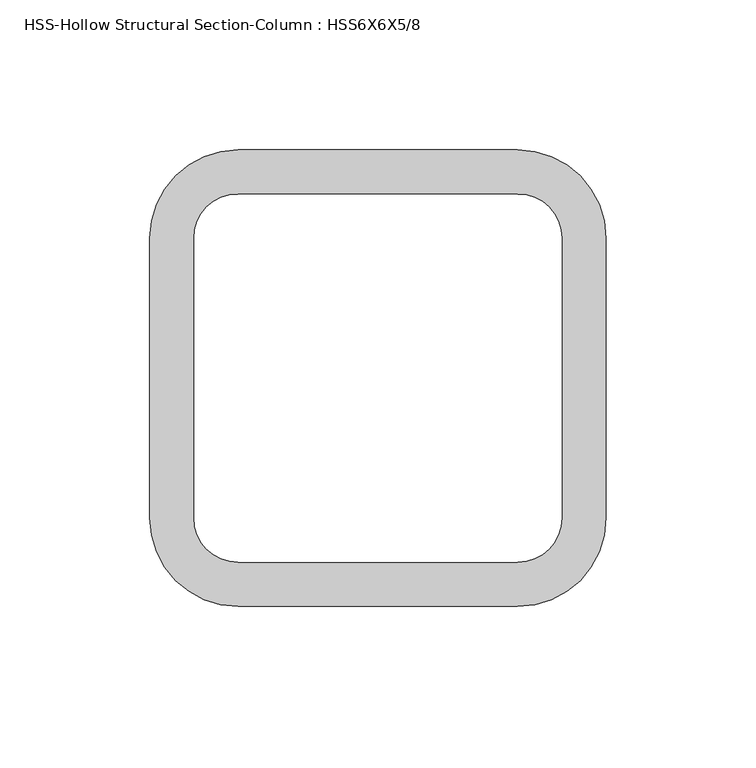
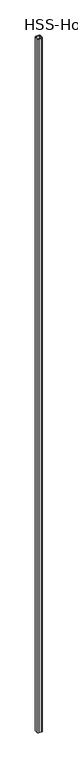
"""IFC4 building model written with IfcOpenShell, lengths in millimetres: column geometry, HSS-Hollow Structural Section-Column : HSS6X6X5/8."""

import ifcopenshell
import ifcopenshell.guid

model = None  # the IFC model being written
_history = None  # IfcOwnerHistory: only IFC2X3 demands one
_inside = {}  # id of a spatial element -> (the spatial element, [elements in it])
_under = {}  # id of a project, library or spatial element -> (it, [spatial elements below it])
_declared = {}  # id of a project -> (the project, [libraries it declares])
_typed = {}  # id of a type object -> (the type object, [elements of that type])
_made_of = {}  # id of a material, layer set ... -> (it, [elements and type objects made of it])


def new_model(schema):
    """Start an empty IFC model of exactly this schema.

    Asked for "IFC4X3", IfcOpenShell would pick the latest addendum, in which some entities
    have other attributes; the version numbers below select the first issue.
    IFC2X3 requires an IfcOwnerHistory on every rooted entity: one is made here for all.
    """
    global model, _history
    if schema == "IFC4X3":
        model = ifcopenshell.file(schema_version=(4, 3, 0, 0))
    else:
        model = ifcopenshell.file(schema=schema)
    _inside.clear()
    _under.clear()
    _declared.clear()
    _typed.clear()
    _made_of.clear()
    _history = None
    if model.schema == "IFC2X3":
        org = make("IfcOrganization", Name="unknown")
        user = make(
            "IfcPersonAndOrganization",
            ThePerson=make("IfcPerson", FamilyName="unknown"),
            TheOrganization=org,
        )
        app = make(
            "IfcApplication",
            ApplicationDeveloper=org,
            Version="unknown",
            ApplicationFullName="unknown",
            ApplicationIdentifier="unknown",
        )
        _history = make(
            "IfcOwnerHistory",
            OwningUser=user,
            OwningApplication=app,
            ChangeAction="ADDED",
            CreationDate=0,
        )
    return model


def make(cls, **values):
    """One entity of the class cls with the attributes given. An attribute that is None is left unset."""
    return model.create_entity(
        cls, **{name: value for name, value in values.items() if value is not None}
    )


def rooted(cls, **values):
    """An entity with a GlobalId (a new one), such as an element, a storey or a relation."""
    return make(cls, GlobalId=ifcopenshell.guid.new(), OwnerHistory=_history, **values)


def si_unit(unit_type, name, prefix=None):
    """IfcSIUnit, for example si_unit("LENGTHUNIT", "METRE", prefix="MILLI")."""
    return make("IfcSIUnit", UnitType=unit_type, Prefix=prefix, Name=name)


def assignment(units):
    """IfcUnitAssignment: the units of a project."""
    return None if units is None else make("IfcUnitAssignment", Units=units)


def point(xyz):
    """IfcCartesianPoint."""
    return None if xyz is None else make("IfcCartesianPoint", Coordinates=xyz)


def direction(xyz):
    """IfcDirection."""
    return None if xyz is None else make("IfcDirection", DirectionRatios=xyz)


def frame(location, z_axis=None, x_axis=None):
    """IfcAxis2Placement3D, a coordinate frame: its origin and axes. An axis left out is left unset."""
    return make(
        "IfcAxis2Placement3D",
        Location=point(location),
        Axis=direction(z_axis),
        RefDirection=direction(x_axis),
    )


def frame_2d(location, x_axis=None):
    """IfcAxis2Placement2D, a coordinate frame in the plane: its origin and x axis."""
    return make(
        "IfcAxis2Placement2D", Location=point(location), RefDirection=direction(x_axis)
    )


def origin():
    """The frame at (0, 0, 0) with its axes left unset."""
    return frame((0.0, 0.0, 0.0))


def origin_with_axes():
    """The frame at (0, 0, 0) with the z axis (0, 0, 1) and the x axis (1, 0, 0) written out."""
    return frame((0.0, 0.0, 0.0), z_axis=(0.0, 0.0, 1.0), x_axis=(1.0, 0.0, 0.0))


def place(relative_to, where):
    """IfcLocalPlacement: puts the frame where relative to a parent placement (None: the world)."""
    return make(
        "IfcLocalPlacement", PlacementRelTo=relative_to, RelativePlacement=where
    )


def context(
    kind, dimensions, precision=None, world=None, true_north=None, identifier=None
):
    """IfcGeometricRepresentationContext, for example the 3D "Model" context."""
    return make(
        "IfcGeometricRepresentationContext",
        ContextIdentifier=identifier,
        ContextType=kind,
        CoordinateSpaceDimension=dimensions,
        Precision=precision,
        WorldCoordinateSystem=world,
        TrueNorth=true_north,
    )


def project(units=None, contexts=None):
    """IfcProject with its units and contexts."""
    return rooted(
        "IfcProject",
        Name="project",
        RepresentationContexts=contexts,
        UnitsInContext=assignment(units),
    )


def spatial(cls, under=None, at=None, **own):
    """A site, building, storey or space (cls), placed at a placement, below another one or the project."""
    s = rooted(cls, ObjectPlacement=at, **own)
    if under is not None:
        _under.setdefault(under.id(), (under, []))[1].append(s)
    return s


def polyline(points):
    """IfcPolyline through the points."""
    return make("IfcPolyline", Points=[point(p) for p in points])


def circle_curve(where, radius):
    """IfcCircle in the frame where."""
    return make("IfcCircle", Position=where, Radius=radius)


def trimmed(basis, trim1, trim2, sense, master):
    """IfcTrimmedCurve: the piece of a basis curve between two trims."""
    return make(
        "IfcTrimmedCurve",
        BasisCurve=basis,
        Trim1=trim1,
        Trim2=trim2,
        SenseAgreement=sense,
        MasterRepresentation=master,
    )


def segment(curve, same_sense, transition):
    """IfcCompositeCurveSegment."""
    return make(
        "IfcCompositeCurveSegment",
        Transition=transition,
        SameSense=same_sense,
        ParentCurve=curve,
    )


def composite_curve(segments, self_intersect=None):
    """IfcCompositeCurve: segments joined end to end."""
    return make("IfcCompositeCurve", Segments=segments, SelfIntersect=self_intersect)


def outline(outer, holes=None, kind="AREA"):
    """IfcArbitraryClosedProfileDef: a profile drawn as a closed curve; with holes, ...WithVoids."""
    if holes is None:
        return make("IfcArbitraryClosedProfileDef", ProfileType=kind, OuterCurve=outer)
    return make(
        "IfcArbitraryProfileDefWithVoids",
        ProfileType=kind,
        OuterCurve=outer,
        InnerCurves=holes,
    )


def extrude(swept, where, along, depth):
    """IfcExtrudedAreaSolid: the profile swept, set in the frame where, extruded along a direction by depth."""
    return make(
        "IfcExtrudedAreaSolid",
        SweptArea=swept,
        Position=where,
        ExtrudedDirection=direction(along),
        Depth=depth,
    )


def shape(context_of_items, identifier, shape_type, items):
    """IfcShapeRepresentation: the items that make up one representation, for example the "Body"."""
    return make(
        "IfcShapeRepresentation",
        ContextOfItems=context_of_items,
        RepresentationIdentifier=identifier,
        RepresentationType=shape_type,
        Items=items,
    )


def source(mapping_origin, context_of_items, identifier, shape_type, items):
    """IfcRepresentationMap: a shape defined once, which mapped items show again and again."""
    return make(
        "IfcRepresentationMap",
        MappingOrigin=mapping_origin,
        MappedRepresentation=shape(context_of_items, identifier, shape_type, items),
    )


def transform(
    local_origin,
    x_axis=None,
    y_axis=None,
    z_axis=None,
    scale=None,
    scale2=None,
    scale3=None,
    uniform=True,
):
    """IfcCartesianTransformationOperator3D, or its non-uniform kind. x_axis, y_axis, z_axis: its Axis1, 2, 3."""
    if uniform:
        return make(
            "IfcCartesianTransformationOperator3D",
            Axis1=direction(x_axis),
            Axis2=direction(y_axis),
            LocalOrigin=point(local_origin),
            Scale=scale,
            Axis3=direction(z_axis),
        )
    return make(
        "IfcCartesianTransformationOperator3DnonUniform",
        Axis1=direction(x_axis),
        Axis2=direction(y_axis),
        LocalOrigin=point(local_origin),
        Scale=scale,
        Axis3=direction(z_axis),
        Scale2=scale2,
        Scale3=scale3,
    )


def mapped(mapping_source, mapping_target):
    """IfcMappedItem: shows the shape of a source again, moved by a transform."""
    return make(
        "IfcMappedItem", MappingSource=mapping_source, MappingTarget=mapping_target
    )


def made_of(thing, what):
    """Note that an element or type object is made of a material, layer set ...; save() writes the relation."""
    if what is not None:
        _made_of.setdefault(what.id(), (what, []))[1].append(thing)
    return thing


def element(
    cls,
    number,
    at=None,
    inside=None,
    cuts=None,
    type_object=None,
    material=None,
    context=None,
    identifier="Body",
    shape_type=None,
    held_by="IfcProductDefinitionShape",
    body=None,
    shapes=None,
    **own,
):
    """One element of the class cls, such as IfcWall. Its Tag is "e" and its number.

    at: its placement. inside: the storey or other place that contains it. cuts: it is an
    opening in that element (IfcRelVoidsElement). A single representation is given by context,
    identifier, shape_type and body (its items); several are given by shapes. held_by: the class
    of the entity that holds the representations. save() writes the other relations.
    """
    e = rooted(cls, Tag="e%d" % number, ObjectPlacement=at, **own)
    if body is not None:
        shapes = [shape(context, identifier, shape_type, body)]
    if shapes is not None:
        e.Representation = make(held_by, Representations=shapes)
    if inside is not None:
        _inside.setdefault(inside.id(), (inside, []))[1].append(e)
    if cuts is not None:
        rooted(
            "IfcRelVoidsElement", RelatingBuildingElement=cuts, RelatedOpeningElement=e
        )
    if type_object is not None:
        _typed.setdefault(type_object.id(), (type_object, []))[1].append(e)
    return made_of(e, material)


def aggregate(whole, parts):
    """IfcRelAggregates: a whole, such as a stair, and the parts it consists of."""
    return rooted("IfcRelAggregates", RelatingObject=whole, RelatedObjects=parts)


def save(model, path):
    """Write the relations noted so far, then the file.

    IfcRelAggregates (storeys below a building ...), IfcRelContainedInSpatialStructure (elements
    in a storey), IfcRelDefinesByType, IfcRelAssociatesMaterial and IfcRelDeclares: one each for
    every whole, place, type object, material and project.
    """
    for whole, parts in _under.values():
        aggregate(whole, parts)
    for where, things in _inside.values():
        rooted(
            "IfcRelContainedInSpatialStructure",
            RelatedElements=things,
            RelatingStructure=where,
        )
    for kind, things in _typed.values():
        rooted("IfcRelDefinesByType", RelatedObjects=things, RelatingType=kind)
    for what, things in _made_of.values():
        rooted("IfcRelAssociatesMaterial", RelatedObjects=things, RelatingMaterial=what)
    for by, libraries in _declared.values():
        rooted("IfcRelDeclares", RelatingContext=by, RelatedDefinitions=libraries)
    model.write(path)


def hss_hollow_structural_section_column_hss6x6x5_8_4a98404a(model_context):
    return source(origin(), model_context, "Body", "SweptSolid", [
        extrude(outline(composite_curve([segment(polyline([(46.6852, -76.2), (-46.6852, -76.2)]), True, "CONTINUOUS"), segment(trimmed(circle_curve(frame_2d((-46.6852, -46.6852)), 29.5148), [point((-46.6852, -76.2))], [point((-76.2, -46.6852))], False, "CARTESIAN"), True, "CONTINUOUS"), segment(polyline([(-76.2, -46.6852), (-76.2, 46.6852)]), True, "CONTINUOUS"), segment(trimmed(circle_curve(frame_2d((-46.6852, 46.6852)), 29.5148), [point((-76.2, 46.6852))], [point((-46.6852, 76.2))], False, "CARTESIAN"), True, "CONTINUOUS"), segment(polyline([(-46.6852, 76.2), (46.6852, 76.2)]), True, "CONTINUOUS"), segment(trimmed(circle_curve(frame_2d((46.6852, 46.6852)), 29.5148), [point((46.6852, 76.2))], [point((76.2, 46.6852))], False, "CARTESIAN"), True, "CONTINUOUS"), segment(polyline([(76.2, 46.6852), (76.2, -46.6852)]), True, "CONTINUOUS"), segment(trimmed(circle_curve(frame_2d((46.6852, -46.6852)), 29.5148), [point((76.2, -46.6852))], [point((46.6852, -76.2))], False, "CARTESIAN"), True, "CONTINUOUS")], self_intersect=False), holes=[composite_curve([segment(trimmed(circle_curve(frame_2d((46.6852, -46.6852)), 14.7574), [point((46.6852, -61.4426))], [point((61.4426, -46.6852))], True, "CARTESIAN"), True, "CONTINUOUS"), segment(polyline([(61.4426, -46.6852), (61.4426, 46.6852)]), True, "CONTINUOUS"), segment(trimmed(circle_curve(frame_2d((46.6852, 46.6852)), 14.7574), [point((61.4426, 46.6852))], [point((46.6852, 61.4426))], True, "CARTESIAN"), True, "CONTINUOUS"), segment(polyline([(46.6852, 61.4426), (-46.6852, 61.4426)]), True, "CONTINUOUS"), segment(trimmed(circle_curve(frame_2d((-46.6852, 46.6852)), 14.7574), [point((-46.6852, 61.4426))], [point((-61.4426, 46.6852))], True, "CARTESIAN"), True, "CONTINUOUS"), segment(polyline([(-61.4426, 46.6852), (-61.4426, -46.6852)]), True, "CONTINUOUS"), segment(trimmed(circle_curve(frame_2d((-46.6852, -46.6852)), 14.7574), [point((-61.4426, -46.6852))], [point((-46.6852, -61.4426))], True, "CARTESIAN"), True, "CONTINUOUS"), segment(polyline([(-46.6852, -61.4426), (46.6852, -61.4426)]), True, "CONTINUOUS")], self_intersect=False)]), origin_with_axes(), (0.0, 0.0, 1.0), 22555.2),
    ])


if __name__ == "__main__":
    model = new_model("IFC4")
    model_context = context("Model", 3, world=origin())
    ifc_project = project(units=[si_unit("LENGTHUNIT", "METRE", prefix="MILLI")], contexts=[model_context])
    site = spatial("IfcSite", under=ifc_project)
    building = spatial("IfcBuilding", under=site)
    placement = place(None, origin())
    hss_hollow_structural_section_column_hss6x6x5_8_shape = hss_hollow_structural_section_column_hss6x6x5_8_4a98404a(model_context)
    element("IfcColumn", 1, ObjectType="HSS-Hollow Structural Section-Column : HSS6X6X5/8", at=placement, inside=building, context=model_context, shape_type="MappedRepresentation", body=[
        mapped(hss_hollow_structural_section_column_hss6x6x5_8_shape, transform((0.0, 0.0, 0.0), x_axis=(1.0, 0.0, 0.0), y_axis=(0.0, 1.0, 0.0), z_axis=(0.0, 0.0, 1.0))),
    ])
    save(model, "model.ifc")
